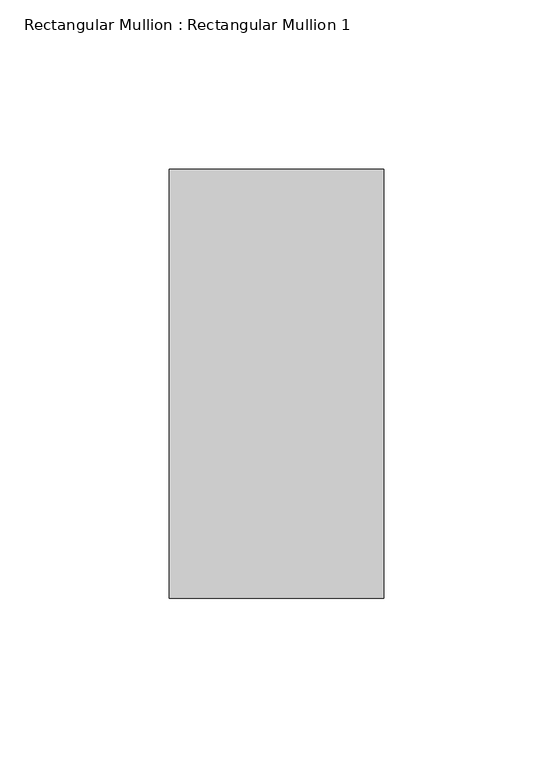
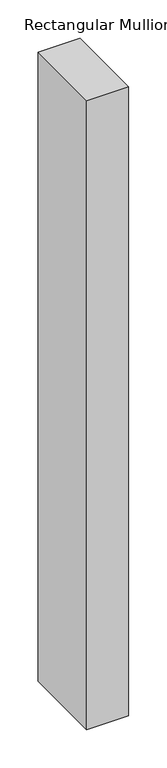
"""IFC4 building model written with IfcOpenShell, lengths in millimetres: member geometry, Rectangular Mullion : Rectangular Mullion 1."""

from ifc_helpers import new_model, si_unit, frame, origin, place, context, project, spatial, polyline, outline, extrude, source, transform, mapped, element, save


def rectangular_mullion_rectangular_mullion_1_cfcad22e(model_context):
    return source(origin(), model_context, "Body", "SweptSolid", [
        extrude(outline(polyline([(0.0, 63.5), (0.0, -63.5), (-63.5, -63.5), (-63.5, 63.5), (0.0, 63.5)])), frame((0.0, 0.0, -1003.3), z_axis=(0.0, 0.0, 1.0), x_axis=(1.0, 0.0, 0.0)), (0.0, 0.0, 1.0), 1003.3),
    ])


if __name__ == "__main__":
    model = new_model("IFC4")
    model_context = context("Model", 3, world=origin())
    ifc_project = project(units=[si_unit("LENGTHUNIT", "METRE", prefix="MILLI")], contexts=[model_context])
    site = spatial("IfcSite", under=ifc_project)
    building = spatial("IfcBuilding", under=site)
    placement = place(None, origin())
    rectangular_mullion_rectangular_mullion_1_shape = rectangular_mullion_rectangular_mullion_1_cfcad22e(model_context)
    element("IfcMember", 1, ObjectType="Rectangular Mullion : Rectangular Mullion 1", at=placement, inside=building, context=model_context, shape_type="MappedRepresentation", body=[
        mapped(rectangular_mullion_rectangular_mullion_1_shape, transform((0.0, 0.0, 0.0), x_axis=(1.0, 0.0, 0.0), y_axis=(0.0, 1.0, 0.0), z_axis=(0.0, 0.0, 1.0))),
    ])
    save(model, "model.ifc")
